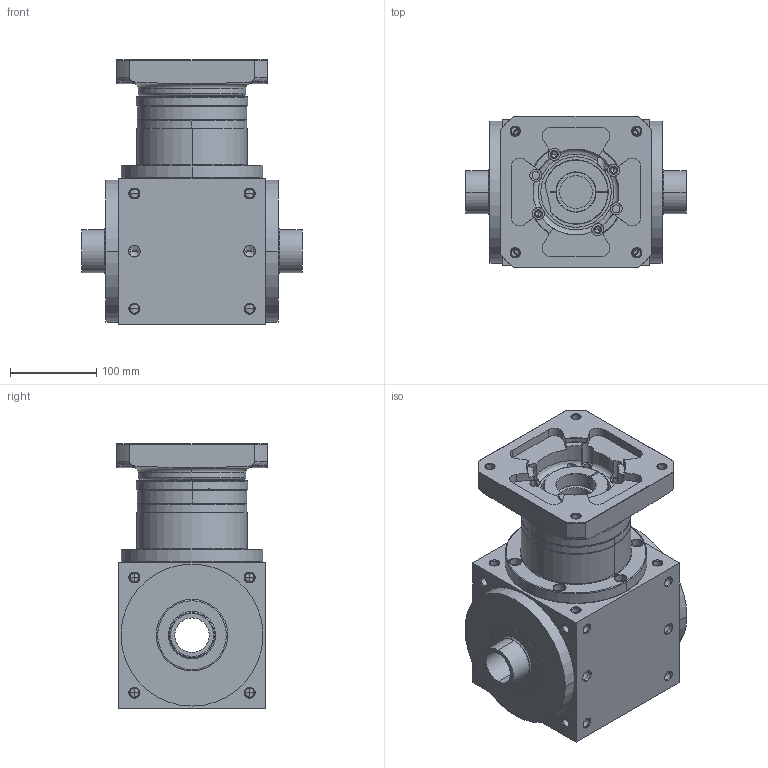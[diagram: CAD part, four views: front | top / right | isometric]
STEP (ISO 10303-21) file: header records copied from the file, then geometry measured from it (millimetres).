
FILE_DESCRIPTION((''),'2;1');
FILE_NAME('ATB170FC1-P0403500801_ASM','2014-07-22T',('d01544'),('APEX'),'PRO/ENGINEER BY PARAMETRIC TECHNOLOGY CORPORATION, 2008410','PRO/ENGINEER BY PARAMETRIC TECHNOLOGY CORPORATION, 2008410','');
FILE_SCHEMA(('CONFIG_CONTROL_DESIGN'));
Length unit declared in the file: millimetre
Products named in the file (6): ATB170FC-A; P1820700001; P1502700001; P0501500001; P0403500801; ATB170FC1-P0403500801_ASM
Assembly tree (5 placements, depth 2):
  ATB170FC1-P0403500801_ASM
    ATB170FC-A
    P1820700001
    P1502700001
    P0501500001
    P0403500801
Bounding box: 256 x 176 x 307.5 mm (x, y, z)
Volume: 6619550.4 mm3; surface area: 529159.2 mm2
Topology: 5 solids, 46 shells, 856 faces, 2189 edges, 1338 vertices
Faces by surface type: cylinder 374, cone 294, plane 136, torus 50, bspline 2
Entity records: 27243 total; most frequent: CARTESIAN_POINT 6292, DIRECTION 4677, ORIENTED_EDGE 4054, EDGE_CURVE 2109, AXIS2_PLACEMENT_3D 1960, VERTEX_POINT 1338, CIRCLE 1085, EDGE_LOOP 1021
